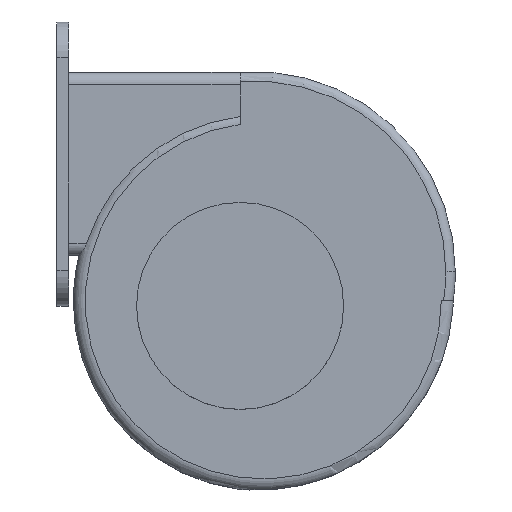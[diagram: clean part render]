
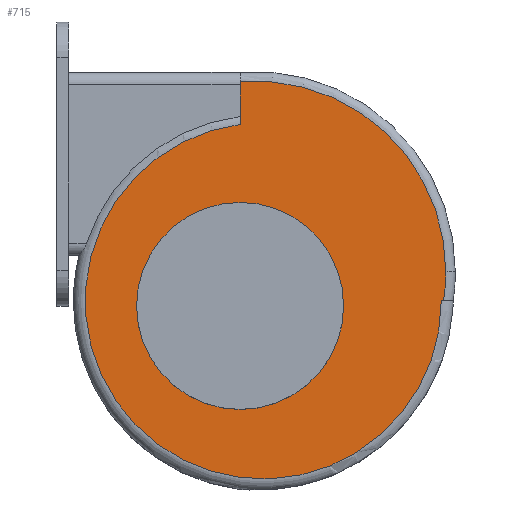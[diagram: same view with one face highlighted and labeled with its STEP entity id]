
A CAD part, top view. The second image highlights one B-rep face of the part: STEP entity #715.
In plain terms, the highlighted planar face has unit normal (0, 0, 1).
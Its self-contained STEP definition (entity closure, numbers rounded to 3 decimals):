
#6 = LINE ( 'NONE', #377, #1621 ) ;
#10 = CIRCLE ( 'NONE', #1563, 160.928 ) ;
#30 = CARTESIAN_POINT ( 'NONE',  ( 173.889, 29.07, 75. ) ) ;
#49 = CARTESIAN_POINT ( 'NONE',  ( 171.964, 4.254, 75. ) ) ;
#62 = CARTESIAN_POINT ( 'NONE',  ( 170.056, 4.254, 75. ) ) ;
#115 = AXIS2_PLACEMENT_3D ( 'NONE', #935, #2270, #1128 ) ;
#116 = DIRECTION ( 'NONE',  ( 1., 0., 0. ) ) ;
#206 = DIRECTION ( 'NONE',  ( 1., 0., 0. ) ) ;
#221 = EDGE_CURVE ( 'NONE', #1631, #1813, #10, .T. ) ;
#242 = AXIS2_PLACEMENT_3D ( 'NONE', #1599, #425, #1788 ) ;
#264 = FACE_OUTER_BOUND ( 'NONE', #2246, .T. ) ;
#346 = VERTEX_POINT ( 'NONE', #2165 ) ;
#377 = CARTESIAN_POINT ( 'NONE',  ( 0., 4.254, 75. ) ) ;
#406 = CIRCLE ( 'NONE', #429, 160.928 ) ;
#416 = ORIENTED_EDGE ( 'NONE', *, *, #2230, .T. ) ;
#425 = DIRECTION ( 'NONE',  ( 0., 0., 1. ) ) ;
#429 = AXIS2_PLACEMENT_3D ( 'NONE', #938, #2274, #1132 ) ;
#532 = EDGE_CURVE ( 'NONE', #1842, #1723, #1798, .T. ) ;
#549 = EDGE_CURVE ( 'NONE', #346, #2396, #2180, .T. ) ;
#552 = ORIENTED_EDGE ( 'NONE', *, *, #532, .T. ) ;
#604 = ORIENTED_EDGE ( 'NONE', *, *, #221, .T. ) ;
#637 = EDGE_CURVE ( 'NONE', #1813, #1577, #6, .T. ) ;
#694 = CARTESIAN_POINT ( 'NONE',  ( 0., 189.475, 75. ) ) ;
#708 = VECTOR ( 'NONE', #2335, 1000. ) ;
#715 = ADVANCED_FACE ( 'NONE', ( #264, #1386 ), #1882, .T. ) ;
#807 = CARTESIAN_POINT ( 'NONE',  ( 180.056, 4.254, 75. ) ) ;
#866 = CARTESIAN_POINT ( 'NONE',  ( 0., 153.428, 75. ) ) ;
#935 = CARTESIAN_POINT ( 'NONE',  ( 19.601, 4.254, 75. ) ) ;
#938 = CARTESIAN_POINT ( 'NONE',  ( 12.961, 29.07, 75. ) ) ;
#1121 = DIRECTION ( 'NONE',  ( 1., 0., 0. ) ) ;
#1128 = DIRECTION ( 'NONE',  ( 1., 0., 0. ) ) ;
#1132 = DIRECTION ( 'NONE',  ( 1., 0., 0. ) ) ;
#1220 = AXIS2_PLACEMENT_3D ( 'NONE', #2253, #2260, #1121 ) ;
#1286 = CIRCLE ( 'NONE', #115, 150.456 ) ;
#1293 = AXIS2_PLACEMENT_3D ( 'NONE', #2468, #1324, #116 ) ;
#1324 = DIRECTION ( 'NONE',  ( 0., 0., 1. ) ) ;
#1386 = FACE_BOUND ( 'NONE', #1810, .T. ) ;
#1401 = DIRECTION ( 'NONE',  ( 0., 0., 1. ) ) ;
#1557 = ORIENTED_EDGE ( 'NONE', *, *, #637, .T. ) ;
#1563 = AXIS2_PLACEMENT_3D ( 'NONE', #2540, #1401, #206 ) ;
#1577 = VERTEX_POINT ( 'NONE', #866 ) ;
#1599 = CARTESIAN_POINT ( 'NONE',  ( 0., 0., 75. ) ) ;
#1601 = CIRCLE ( 'NONE', #242, 87.5 ) ;
#1621 = VECTOR ( 'NONE', #1932, 1000. ) ;
#1631 = VERTEX_POINT ( 'NONE', #30 ) ;
#1723 = VERTEX_POINT ( 'NONE', #49 ) ;
#1788 = DIRECTION ( 'NONE',  ( 1., 0., 0. ) ) ;
#1798 = LINE ( 'NONE', #807, #708 ) ;
#1810 = EDGE_LOOP ( 'NONE', ( #2346, #2162 ) ) ;
#1813 = VERTEX_POINT ( 'NONE', #694 ) ;
#1842 = VERTEX_POINT ( 'NONE', #62 ) ;
#1882 = PLANE ( 'NONE',  #1220 ) ;
#1932 = DIRECTION ( 'NONE',  ( 0., -1., 0. ) ) ;
#1948 = EDGE_CURVE ( 'NONE', #1723, #1631, #406, .T. ) ;
#2117 = EDGE_CURVE ( 'NONE', #2396, #346, #1601, .T. ) ;
#2162 = ORIENTED_EDGE ( 'NONE', *, *, #2117, .F. ) ;
#2165 = CARTESIAN_POINT ( 'NONE',  ( -87.5, 0., 75. ) ) ;
#2180 = CIRCLE ( 'NONE', #1293, 87.5 ) ;
#2230 = EDGE_CURVE ( 'NONE', #1577, #1842, #1286, .T. ) ;
#2246 = EDGE_LOOP ( 'NONE', ( #552, #2375, #604, #1557, #416 ) ) ;
#2253 = CARTESIAN_POINT ( 'NONE',  ( 17.2, 7.042, 75. ) ) ;
#2260 = DIRECTION ( 'NONE',  ( 0., 0., 1. ) ) ;
#2270 = DIRECTION ( 'NONE',  ( 0., 0., 1. ) ) ;
#2274 = DIRECTION ( 'NONE',  ( 0., 0., 1. ) ) ;
#2335 = DIRECTION ( 'NONE',  ( 1., 0., 0. ) ) ;
#2346 = ORIENTED_EDGE ( 'NONE', *, *, #549, .F. ) ;
#2375 = ORIENTED_EDGE ( 'NONE', *, *, #1948, .T. ) ;
#2396 = VERTEX_POINT ( 'NONE', #2451 ) ;
#2451 = CARTESIAN_POINT ( 'NONE',  ( 87.5, 0., 75. ) ) ;
#2468 = CARTESIAN_POINT ( 'NONE',  ( 0., 0., 75. ) ) ;
#2540 = CARTESIAN_POINT ( 'NONE',  ( 12.961, 29.07, 75. ) ) ;
